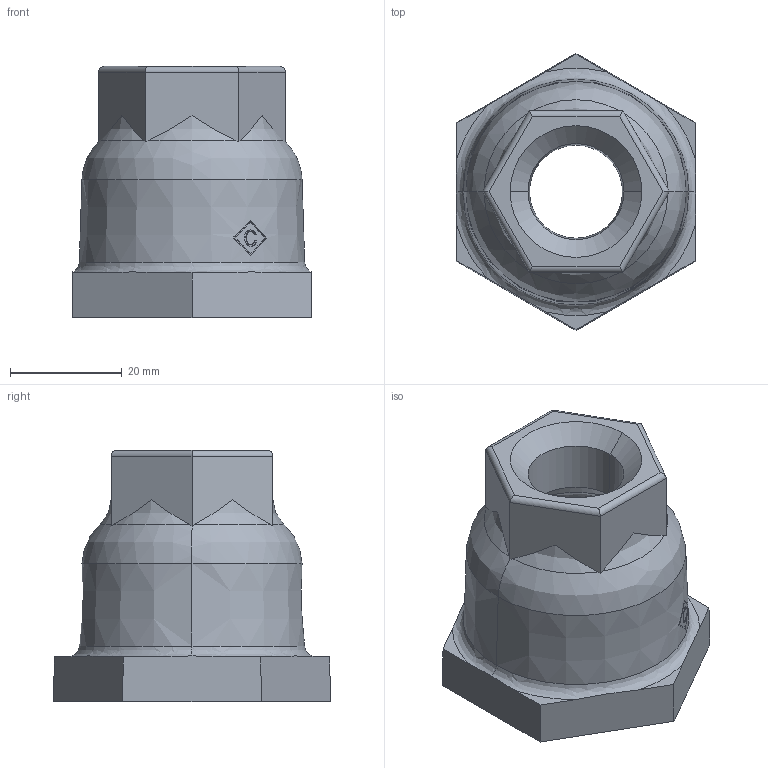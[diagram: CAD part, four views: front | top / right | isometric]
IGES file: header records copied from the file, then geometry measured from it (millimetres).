
Global section: file name: No Iges File Name specified; native system: AutoDesk Inventor R12.0; preprocessor: AutoDesk Inventor Iges Exporter R12.0; date: 20090917.083513; units: millimetre
Bounding box: 43 x 49.65 x 45 mm (x, y, z)
Volume: 28065.9 mm3; surface area: 10609.6 mm2
Topology: 1 solids, 1 shells, 74 faces, 188 edges, 120 vertices
Faces by surface type: plane 31, bspline 20, revolution 12, cylinder 6, cone 5
